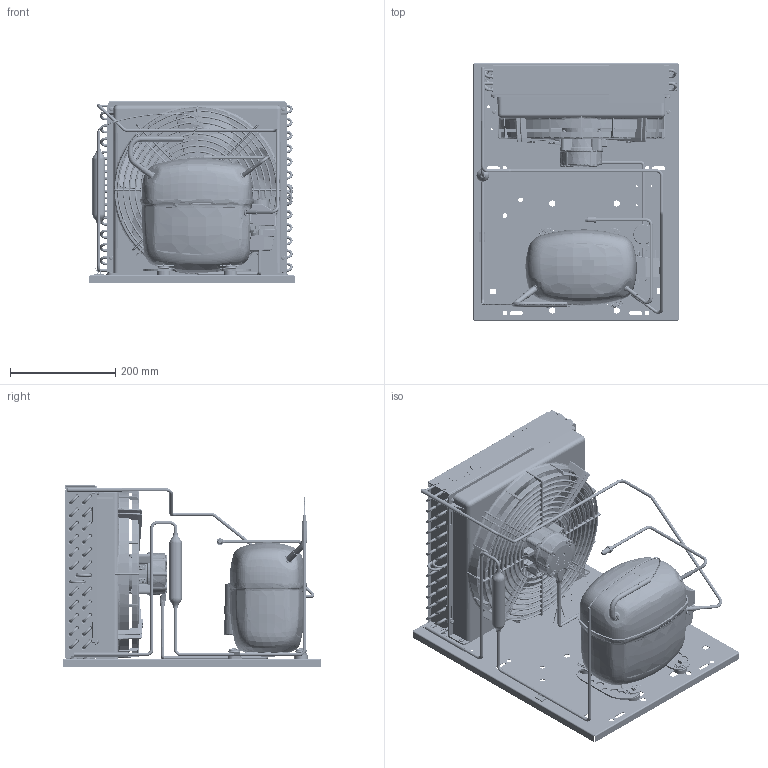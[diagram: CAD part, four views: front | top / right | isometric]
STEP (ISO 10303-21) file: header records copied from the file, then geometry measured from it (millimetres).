
FILE_DESCRIPTION(/* description */ ('Unknown'),/* implementation_level */ '2;1');
FILE_NAME(/* name */ '2298-0077',/* time_stamp */ '2022-03-23T14:38:37+01:00',/* author */ ('Unknown'),/* organization */ ('Unknown'),/* preprocessor_version */ 'ST-DEVELOPER v16.7',/* originating_system */ 'Solid Edge',/* authorisation */ 'Unknown');
FILE_SCHEMA (('AUTOMOTIVE_DESIGN {1 0 10303 214 3 1 1}'));
Products named in the file (48): 2298-0077; 92505124_oa_0; 1340315FI0_oa_1; RL5028606; RL5028607; R59A00366; RL5028601; 2905051820; R57A00366; 2905052520; rn5014308; rl5014904; cg300n; 84a4.2x9.5xtbcf01; 84fm6x8xxxxtesf00; 84DM6X5.2XXESRF00; 62010155; 9221-0002; a300-22; a300-22_costruzione_oa_2; a300-22_costruzione_oa_3; a300-22_costruzione_oa_4; a300-22_costruzione_oa_5; a300-22_costruzione_oa_6; 84dm4x3.6xxesrf00; 99500100; 118-3661; 7000-0299; 84RM10X21XXPIAF00; 118-7353; 6805-1350; 6803-1610; 99540010; 99000324; 99000327; 99000326; 99000082_SECOP_F-GAS; 99000321; 99000082_secop; 55300398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
Assembly tree (117 placements, depth 3):
  2298-0077
    92505124_oa_0
    1340315FI0_oa_1
      RL5028606
      RL5028607
      R59A00366  x2
      RL5028601
      2905051820  x22
      R57A00366  x24
      2905052520  x2
      rn5014308
      rl5014904  x2
    cg300n
    84a4.2x9.5xtbcf01  x6
    84fm6x8xxxxtesf00  x4
    84DM6X5.2XXESRF00  x4
    62010155
    9221-0002
    a300-22
      a300-22_costruzione_oa_2
      a300-22_costruzione_oa_3
      a300-22_costruzione_oa_4
      a300-22_costruzione_oa_5
      a300-22_costruzione_oa_6
    84dm4x3.6xxesrf00  x4
    99500100
    118-3661  x4
    7000-0299
    84RM10X21XXPIAF00  x4
    118-7353  x4
    6805-1350
    6803-1610
    99540010
    99000324
    99000327
    99000326
    99000082_SECOP_F-GAS
    99000321
    99000082_secop
    55300398
    6803-1626
    99000205
    6803-1627
    GFN30_62-62
    6803-1629
    2992137_oa_7
    99100226
    2298-0077_CAVO_VENTOLA
Bounding box: 390 x 490 x 345.3 mm (x, y, z)
Volume: 6145946.2 mm3; surface area: 2977745.3 mm2
Topology: 120 solids, 126 shells, 15979 faces, 41815 edges, 26676 vertices
Faces by surface type: plane 7679, cylinder 3238, bspline 2211, torus 1738, cone 951, sphere 162
Full cylindrical faces by diameter (mm): 1.2 x4, 1.3 x2, 1.5 x2, 1.8 x2, 1.945 x3, 2 x20, 2.2 x4, 2.31 x5, 2.45 x6, 3 x2, 3.14 x6, 3.2 x3, 3.242 x4, 3.36 x4, 3.375 x1, 3.5 x15, 4 x72, 4.2 x26, 4.205 x11, 4.5 x61, 4.76 x4, 5 x105, 5.104 x1, 5.48 x94, 5.5 x9, 6 x29, 6.2 x4, 6.6 x2, 6.9 x1, 7 x22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
Entity records: 764972 total; most frequent: CARTESIAN_POINT 355206, ORIENTED_EDGE 75926, DIRECTION 58477, EDGE_CURVE 37963, VERTEX_POINT 24933, AXIS2_PLACEMENT_3D 21322, EDGE_LOOP 17934, FACE_BOUND 17934
